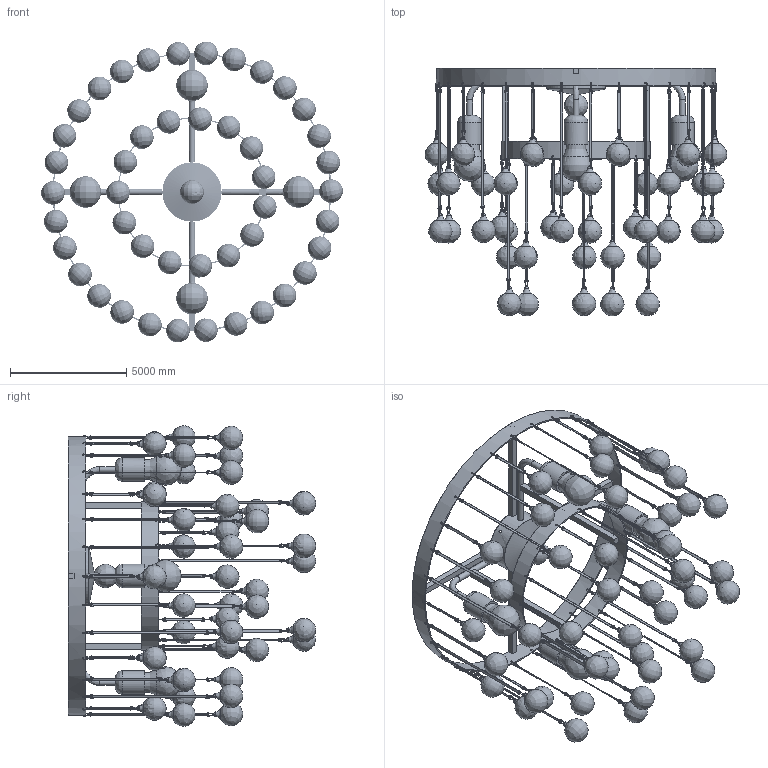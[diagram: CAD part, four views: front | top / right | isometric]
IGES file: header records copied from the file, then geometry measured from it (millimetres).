
Global section: file name: Aubrey Flush Mount Ceiling Lamp; native system: AutoCAD 2022 - 简体中文 (Simplified Chinese),62HAuto; preprocessor: desk Translation Framework DWG producer (atf_dwg_producer); organization: unknown; date: 20250823.165708; units: inch
Bounding box: 12954.77 x 10635.47 x 12919.16 mm (x, y, z)
Volume: 41638732423.3 mm3; surface area: 436901743.2 mm2
Topology: 205 solids, 205 shells, 3391 faces, 9705 edges, 6548 vertices
Faces by surface type: bspline 3391
